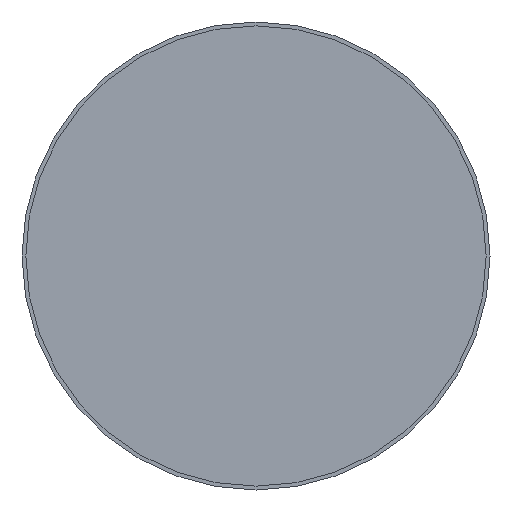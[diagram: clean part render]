
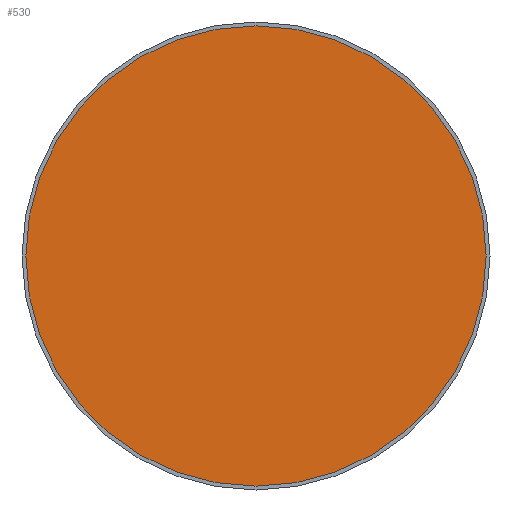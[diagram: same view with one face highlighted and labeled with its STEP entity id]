
A CAD part, front view. The second image highlights one B-rep face of the part: STEP entity #530.
In plain terms, the highlighted planar face has unit normal (0, -1, 0).
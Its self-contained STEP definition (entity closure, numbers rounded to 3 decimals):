
#1=CARTESIAN_POINT('',(0.,0.,0.));
#2=DIRECTION('',(0.,-1.,0.));
#3=DIRECTION('',(1.,0.,0.));
#4=AXIS2_PLACEMENT_3D('',#1,#2,#3);
#14=CARTESIAN_POINT('',(0.,0.,0.));
#15=DIRECTION('',(0.,1.,0.));
#16=DIRECTION('',(1.,0.,0.));
#17=AXIS2_PLACEMENT_3D('',#14,#15,#16);
#403=CARTESIAN_POINT('',(60.,0.,0.));
#405=VERTEX_POINT('',#403);
#417=CARTESIAN_POINT('',(-60.,0.,0.));
#419=VERTEX_POINT('',#417);
#519=CARTESIAN_POINT('',(0.,0.,0.));
#520=DIRECTION('',(0.,-1.,0.));
#521=DIRECTION('',(-1.,0.,0.));
#522=AXIS2_PLACEMENT_3D('',#519,#520,#521);
#523=PLANE('',#522);
#525=ORIENTED_EDGE('',*,*,#524,.F.);
#527=ORIENTED_EDGE('',*,*,#526,.T.);
#528=EDGE_LOOP('',(#525,#527));
#529=FACE_OUTER_BOUND('',#528,.F.);
#530=ADVANCED_FACE('',(#529),#523,.T.);
#5=CIRCLE('',#4,60.);
#18=CIRCLE('',#17,60.);
#524=EDGE_CURVE('',#405,#419,#5,.T.);
#526=EDGE_CURVE('',#405,#419,#18,.T.);
